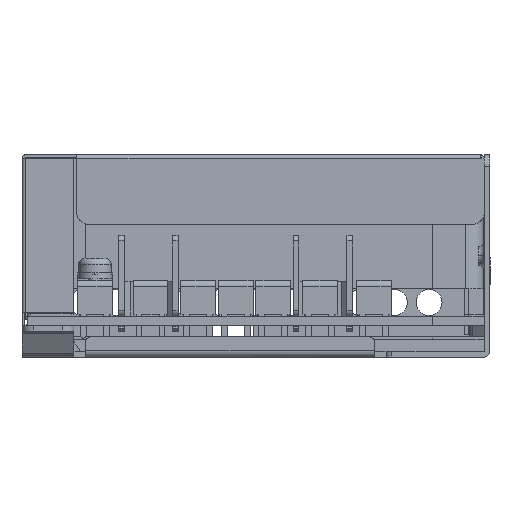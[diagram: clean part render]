
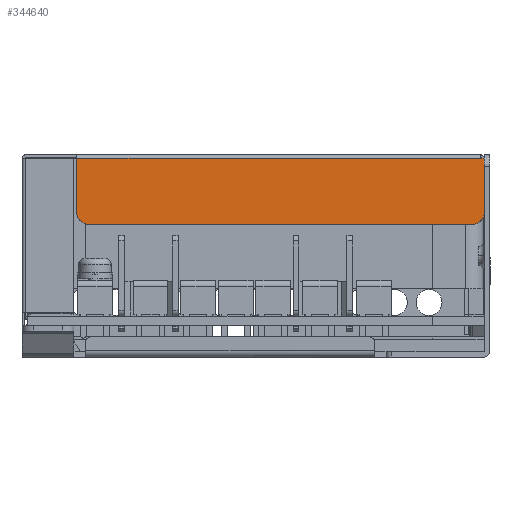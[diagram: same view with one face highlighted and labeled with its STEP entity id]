
A CAD part, left-side view. The second image highlights one B-rep face of the part: STEP entity #344640.
In plain terms, the highlighted planar face has unit normal (-1, 0, 0).
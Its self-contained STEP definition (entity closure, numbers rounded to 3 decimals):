
#228160=CARTESIAN_POINT('',(-9.335,81.156,
-0.6));
#228170=VERTEX_POINT('',#228160);
#244690=CARTESIAN_POINT('',(-9.335,80.555,
-0.6));
#244700=VERTEX_POINT('',#244690);
#244730=CARTESIAN_POINT('',(-9.335,81.156,
-0.6));
#244740=DIRECTION('',(0.,-1.,0.));
#244750=VECTOR('',#244740,1.);
#244760=LINE('',#244730,#244750);
#244770=EDGE_CURVE('',#228170,#244700,#244760,.T.);
#245500=CARTESIAN_POINT('',(-9.335,151.055,-0.6));
#245510=VERTEX_POINT('',#245500);
#245540=CARTESIAN_POINT('',(-9.335,151.055,
-10.003));
#245550=DIRECTION('',(0.,0.,1.));
#245560=VECTOR('',#245550,1.);
#245570=LINE('',#245540,#245560);
#245580=CARTESIAN_POINT('',(-9.335,151.055,
-10.003));
#245590=VERTEX_POINT('',#245580);
#245600=EDGE_CURVE('',#245590,#245510,#245570,.T.);
#344010=CARTESIAN_POINT('',(-9.335,151.055,-0.6));
#344020=DIRECTION('',(0.,-1.,0.));
#344030=VECTOR('',#344020,1.);
#344040=LINE('',#344010,#344030);
#344050=EDGE_CURVE('',#245510,#228170,#344040,.T.);
#344120=CARTESIAN_POINT('',(-9.335,81.056,0.));
#344130=DIRECTION('',(1.,0.,0.));
#344140=DIRECTION('',(0.,-1.,0.));
#344150=AXIS2_PLACEMENT_3D('',#344120,#344130,#344140);
#344160=PLANE('',#344150);
#344170=ORIENTED_EDGE('',*,*,#344050,.F.);
#344180=ORIENTED_EDGE('',*,*,#244770,.F.);
#344190=CARTESIAN_POINT('',(-9.335,80.555,
-10.));
#344200=DIRECTION('',(0.,0.,1.));
#344210=VECTOR('',#344200,1.);
#344220=LINE('',#344190,#344210);
#344230=CARTESIAN_POINT('',(-9.335,80.555,
-10.));
#344240=VERTEX_POINT('',#344230);
#344250=EDGE_CURVE('',#344240,#244700,#344220,.T.);
#344260=ORIENTED_EDGE('',*,*,#344250,.T.);
#344270=CARTESIAN_POINT('',(-9.335,82.565,
-12.001));
#344280=CARTESIAN_POINT('',(-9.335,82.381,
-12.001));
#344290=CARTESIAN_POINT('',(-9.335,82.029,
-11.953));
#344300=CARTESIAN_POINT('',(-9.335,81.543,
-11.751));
#344310=CARTESIAN_POINT('',(-9.335,81.125,
-11.43));
#344320=CARTESIAN_POINT('',(-9.335,80.804,
-11.013));
#344330=CARTESIAN_POINT('',(-9.335,80.601,
-10.523));
#344340=CARTESIAN_POINT('',(-9.335,80.555,
-10.179));
#344350=CARTESIAN_POINT('',(-9.335,80.555,
-10.));
#344360=B_SPLINE_CURVE_WITH_KNOTS('',3,(#344270,#344280,#344290,#344300,
#344310,#344320,#344330,#344340,#344350),.UNSPECIFIED.,.F.,.F.,(4,1,1,1,
1,1,4),(0.,0.167,0.333,0.5,0.667,
0.833,1.),.UNSPECIFIED.);
#344370=CARTESIAN_POINT('',(-9.335,82.56,
-12.));
#344380=VERTEX_POINT('',#344370);
#344390=EDGE_CURVE('',#344380,#344240,#344360,.T.);
#344400=ORIENTED_EDGE('',*,*,#344390,.T.);
#344410=CARTESIAN_POINT('',(-9.335,149.064,
-12.001));
#344420=DIRECTION('',(0.,-1.,0.));
#344430=VECTOR('',#344420,1.);
#344440=LINE('',#344410,#344430);
#344450=CARTESIAN_POINT('',(-9.335,149.059,
-12.002));
#344460=VERTEX_POINT('',#344450);
#344470=EDGE_CURVE('',#344460,#344380,#344440,.T.);
#344480=ORIENTED_EDGE('',*,*,#344470,.T.);
#344490=CARTESIAN_POINT('',(-9.335,151.055,
-10.001));
#344500=CARTESIAN_POINT('',(-9.335,151.055,
-10.181));
#344510=CARTESIAN_POINT('',(-9.335,151.008,
-10.526));
#344520=CARTESIAN_POINT('',(-9.335,150.806,
-11.015));
#344530=CARTESIAN_POINT('',(-9.335,150.485,
-11.433));
#344540=CARTESIAN_POINT('',(-9.335,150.068,
-11.754));
#344550=CARTESIAN_POINT('',(-9.335,149.576,
-11.957));
#344560=CARTESIAN_POINT('',(-9.335,149.239,
-12.001));
#344570=CARTESIAN_POINT('',(-9.335,149.064,
-12.001));
#344580=B_SPLINE_CURVE_WITH_KNOTS('',3,(#344490,#344500,#344510,#344520,
#344530,#344540,#344550,#344560,#344570),.UNSPECIFIED.,.F.,.F.,(4,1,1,1,
1,1,4),(0.,0.167,0.333,0.5,0.667,
0.833,1.),.UNSPECIFIED.);
#344590=EDGE_CURVE('',#245590,#344460,#344580,.T.);
#344600=ORIENTED_EDGE('',*,*,#344590,.T.);
#344610=ORIENTED_EDGE('',*,*,#245600,.F.);
#344620=EDGE_LOOP('',(#344610,#344600,#344480,#344400,#344260,#344180,
#344170));
#344630=FACE_OUTER_BOUND('',#344620,.T.);
#344640=ADVANCED_FACE('',(#344630),#344160,.F.);
